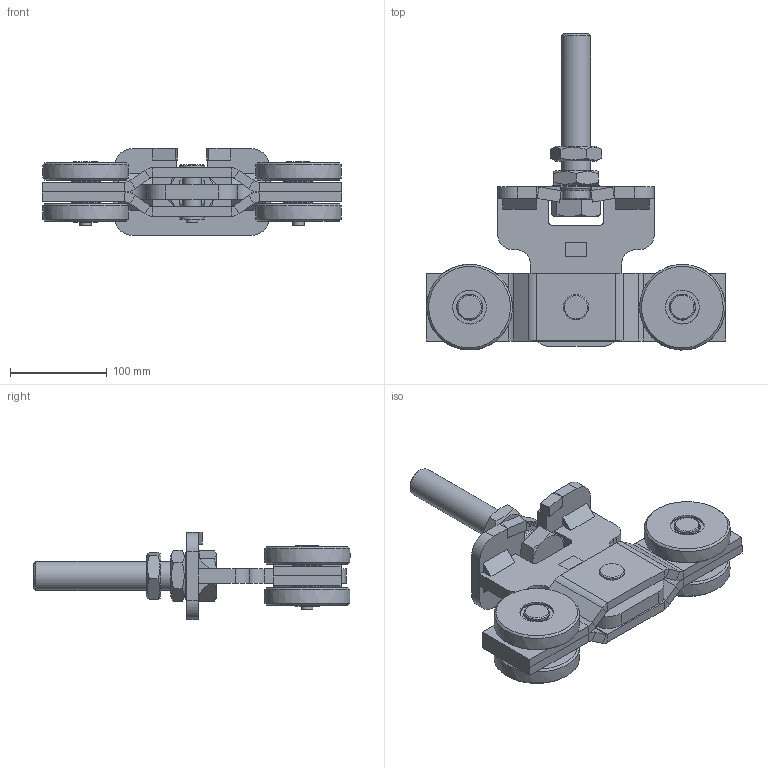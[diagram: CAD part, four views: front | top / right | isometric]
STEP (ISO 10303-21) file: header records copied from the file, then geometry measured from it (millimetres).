
FILE_DESCRIPTION(/* description */ ('Doppelrolle Nr.5'),/* implementation_level */ '2;1');
FILE_NAME(/* name */ 'Q:\sge-ma\Produktmanagement-STB\STB\Workspace\stp\010336450.stp',/* time_stamp */ '2015-07-10T08:51:04+02:00',/* author */ ('avschreier'),/* organization */ (''),/* preprocessor_version */ 'ST-DEVELOPER v15.6',/* originating_system */ 'Autodesk Inventor 2015',/* authorisation */ '');
FILE_SCHEMA (('CONFIG_CONTROL_DESIGN'));
Length unit declared in the file: millimetre
Products named in the file (16): 010336450_Schweißnähte; 000302087; 000302088; 000301995; 000226101; 000301994; 000302091; 337000284; DIN_625-6004_ZZ_en; 000302024; 000302023; DIN 6798 - A  31; DIN 933 - M30  x 170; DIN 439 - M30 x 3,5; DIN_1440-12_en; 010336450
Bounding box: 310 x 326.94 x 90 mm (x, y, z)
Volume: 1436374.3 mm3; surface area: 352812.5 mm2
Topology: 34 solids, 38 shells, 721 faces, 1862 edges, 1198 vertices
Faces by surface type: plane 348, cylinder 214, torus 72, cone 55, sphere 28, bspline 4
Full cylindrical faces by diameter (mm): 12 x6, 19.9 x3, 20 x4, 20.1 x4, 20.5 x6, 25 x3, 26 x3, 26.211 x2, 27.04 x16, 28.106 x1, 30 x5, 31 x1, 34.96 x16, 35 x4, 42 x8, 42.7 x1
Entity records: 13360 total; most frequent: CARTESIAN_POINT 2947, DIRECTION 2186, ORIENTED_EDGE 1990, EDGE_CURVE 995, AXIS2_PLACEMENT_3D 811, VERTEX_POINT 672, LINE 564, VECTOR 564
